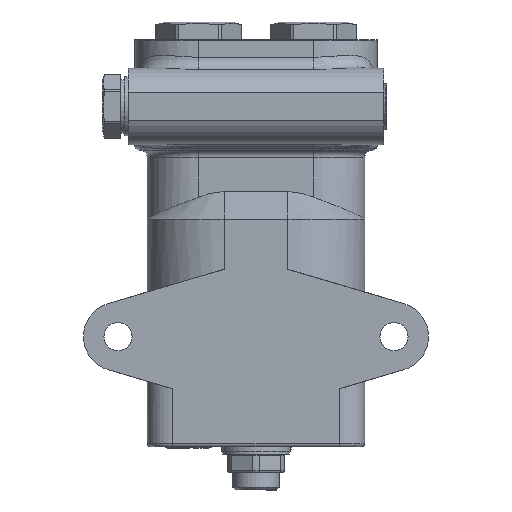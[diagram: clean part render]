
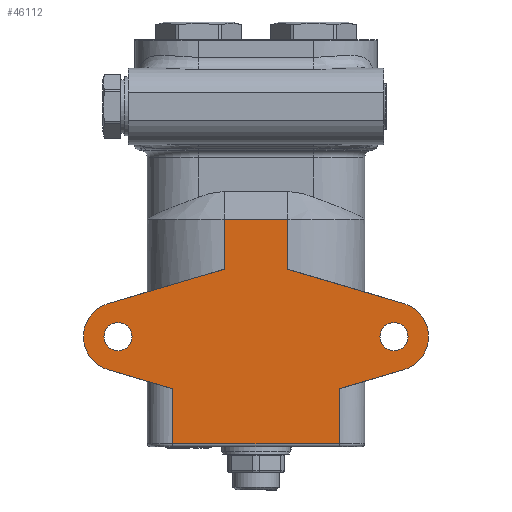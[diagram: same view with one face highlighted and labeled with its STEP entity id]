
A CAD part, front view. The second image highlights one B-rep face of the part: STEP entity #46112.
In plain terms, the highlighted planar face has unit normal (0, -1, 0).
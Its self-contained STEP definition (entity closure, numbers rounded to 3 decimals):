
#45274=CARTESIAN_POINT('',(102.0,0.,32.));
#45275=VERTEX_POINT('',#45274);
#45276=CARTESIAN_POINT('',(96.5,0.0,32.));
#45277=DIRECTION('',(0.0,1.0,0.0));
#45278=DIRECTION('',(-1.0,0.0,0.0));
#45279=AXIS2_PLACEMENT_3D('',#45276,#45277,#45278);
#45280=CIRCLE('',#45279,5.5);
#45281=EDGE_CURVE('',#45275,#45275,#45280,.T.);
#45342=CARTESIAN_POINT('',(-6.,0.,32.));
#45343=VERTEX_POINT('',#45342);
#45344=CARTESIAN_POINT('',(-11.5,0.0,32.));
#45345=DIRECTION('',(0.0,1.0,0.0));
#45346=DIRECTION('',(-1.0,0.0,0.0));
#45347=AXIS2_PLACEMENT_3D('',#45344,#45345,#45346);
#45348=CIRCLE('',#45347,5.5);
#45349=EDGE_CURVE('',#45343,#45343,#45348,.T.);
#45965=CARTESIAN_POINT('',(10.,0.,-10.));
#45966=VERTEX_POINT('',#45965);
#45967=CARTESIAN_POINT('',(10.,0.,11.585));
#45968=VERTEX_POINT('',#45967);
#45969=CARTESIAN_POINT('',(10.,0.,-10.));
#45970=DIRECTION('',(0.0,0.0,1.0));
#45971=VECTOR('',#45970,21.585);
#45972=LINE('',#45969,#45971);
#45973=EDGE_CURVE('',#45966,#45968,#45972,.T.);
#45993=CARTESIAN_POINT('',(75.,0.,0.0));
#45994=DIRECTION('',(0.0,-1.0,0.0));
#45995=DIRECTION('',(0.0,0.0,-1.0));
#45996=AXIS2_PLACEMENT_3D('',#45993,#45994,#45995);
#45997=PLANE('',#45996);
#45998=CARTESIAN_POINT('',(75.,0.,-10.));
#45999=VERTEX_POINT('',#45998);
#46000=CARTESIAN_POINT('',(75.,0.,11.585));
#46001=VERTEX_POINT('',#46000);
#46002=CARTESIAN_POINT('',(75.,0.,-10.));
#46003=DIRECTION('',(0.0,0.0,1.0));
#46004=VECTOR('',#46003,21.585);
#46005=LINE('',#46002,#46004);
#46006=EDGE_CURVE('',#45999,#46001,#46005,.T.);
#46007=ORIENTED_EDGE('',*,*,#46006,.T.);
#46008=CARTESIAN_POINT('',(100.319,0.,19.051));
#46009=VERTEX_POINT('',#46008);
#46010=CARTESIAN_POINT('',(100.319,0.,19.051));
#46011=DIRECTION('',(-0.959,0.,-0.283));
#46012=VECTOR('',#46011,26.397);
#46013=LINE('',#46010,#46012);
#46014=EDGE_CURVE('',#46009,#46001,#46013,.T.);
#46015=ORIENTED_EDGE('',*,*,#46014,.F.);
#46016=CARTESIAN_POINT('',(100.319,0.,44.949));
#46017=VERTEX_POINT('',#46016);
#46018=CARTESIAN_POINT('',(96.5,0.,32.));
#46019=DIRECTION('',(0.,1.0,0.));
#46020=DIRECTION('',(-0.283,0.,0.959));
#46021=AXIS2_PLACEMENT_3D('',#46018,#46019,#46020);
#46022=CIRCLE('',#46021,13.5);
#46023=EDGE_CURVE('',#46017,#46009,#46022,.T.);
#46024=ORIENTED_EDGE('',*,*,#46023,.F.);
#46025=CARTESIAN_POINT('',(55.,0.,58.314));
#46026=VERTEX_POINT('',#46025);
#46027=CARTESIAN_POINT('',(55.,0.,58.314));
#46028=DIRECTION('',(0.959,0.,-0.283));
#46029=VECTOR('',#46028,47.248);
#46030=LINE('',#46027,#46029);
#46031=EDGE_CURVE('',#46026,#46017,#46030,.T.);
#46032=ORIENTED_EDGE('',*,*,#46031,.F.);
#46033=CARTESIAN_POINT('',(55.,0.,78.0));
#46034=VERTEX_POINT('',#46033);
#46035=CARTESIAN_POINT('',(55.,0.,58.314));
#46036=DIRECTION('',(0.0,0.0,1.0));
#46037=VECTOR('',#46036,19.686);
#46038=LINE('',#46035,#46037);
#46039=EDGE_CURVE('',#46026,#46034,#46038,.T.);
#46040=ORIENTED_EDGE('',*,*,#46039,.T.);
#46041=CARTESIAN_POINT('',(54.95,0.,78.0));
#46042=VERTEX_POINT('',#46041);
#46043=CARTESIAN_POINT('',(55.,0.,78.0));
#46044=DIRECTION('',(-1.0,0.0,0.0));
#46045=VECTOR('',#46044,0.05);
#46046=LINE('',#46043,#46045);
#46047=EDGE_CURVE('',#46034,#46042,#46046,.T.);
#46048=ORIENTED_EDGE('',*,*,#46047,.T.);
#46049=CARTESIAN_POINT('',(30.05,0.,78.0));
#46050=VERTEX_POINT('',#46049);
#46051=CARTESIAN_POINT('',(54.95,0.,78.0));
#46052=DIRECTION('',(-1.0,0.0,0.0));
#46053=VECTOR('',#46052,24.9);
#46054=LINE('',#46051,#46053);
#46055=EDGE_CURVE('',#46042,#46050,#46054,.T.);
#46056=ORIENTED_EDGE('',*,*,#46055,.T.);
#46057=CARTESIAN_POINT('',(30.,0.,78.0));
#46058=VERTEX_POINT('',#46057);
#46059=CARTESIAN_POINT('',(30.,30.,78.0));
#46060=DIRECTION('',(0.0,0.0,-1.0));
#46061=DIRECTION('',(-1.0,0.0,0.0));
#46062=AXIS2_PLACEMENT_3D('',#46059,#46060,#46061);
#46063=CIRCLE('',#46062,30.);
#46064=EDGE_CURVE('',#46050,#46058,#46063,.T.);
#46065=ORIENTED_EDGE('',*,*,#46064,.T.);
#46066=CARTESIAN_POINT('',(30.,0.,58.314));
#46067=VERTEX_POINT('',#46066);
#46068=CARTESIAN_POINT('',(30.,0.,58.314));
#46069=DIRECTION('',(0.0,0.0,1.0));
#46070=VECTOR('',#46069,19.686);
#46071=LINE('',#46068,#46070);
#46072=EDGE_CURVE('',#46067,#46058,#46071,.T.);
#46073=ORIENTED_EDGE('',*,*,#46072,.F.);
#46074=CARTESIAN_POINT('',(-15.319,0.,44.949));
#46075=VERTEX_POINT('',#46074);
#46076=CARTESIAN_POINT('',(-15.319,0.,44.949));
#46077=DIRECTION('',(0.959,0.,0.283));
#46078=VECTOR('',#46077,47.248);
#46079=LINE('',#46076,#46078);
#46080=EDGE_CURVE('',#46075,#46067,#46079,.T.);
#46081=ORIENTED_EDGE('',*,*,#46080,.F.);
#46082=CARTESIAN_POINT('',(-15.319,0.,19.051));
#46083=VERTEX_POINT('',#46082);
#46084=CARTESIAN_POINT('',(-11.5,0.,32.));
#46085=DIRECTION('',(0.,1.0,0.));
#46086=DIRECTION('',(0.283,0.,-0.959));
#46087=AXIS2_PLACEMENT_3D('',#46084,#46085,#46086);
#46088=CIRCLE('',#46087,13.5);
#46089=EDGE_CURVE('',#46083,#46075,#46088,.T.);
#46090=ORIENTED_EDGE('',*,*,#46089,.F.);
#46091=CARTESIAN_POINT('',(10.,0.,11.585));
#46092=DIRECTION('',(-0.959,0.,0.283));
#46093=VECTOR('',#46092,26.397);
#46094=LINE('',#46091,#46093);
#46095=EDGE_CURVE('',#45968,#46083,#46094,.T.);
#46096=ORIENTED_EDGE('',*,*,#46095,.F.);
#46097=ORIENTED_EDGE('',*,*,#45973,.F.);
#46098=CARTESIAN_POINT('',(75.0,0.,-10.));
#46099=DIRECTION('',(-1.0,0.0,0.0));
#46100=VECTOR('',#46099,65.0);
#46101=LINE('',#46098,#46100);
#46102=EDGE_CURVE('',#45999,#45966,#46101,.T.);
#46103=ORIENTED_EDGE('',*,*,#46102,.F.);
#46104=EDGE_LOOP('',(#46007,#46015,#46024,#46032,#46040,#46048,#46056,#46065,#46073,#46081,#46090,#46096,#46097,#46103));
#46105=FACE_OUTER_BOUND('',#46104,.T.);
#46106=ORIENTED_EDGE('',*,*,#45281,.T.);
#46107=EDGE_LOOP('',(#46106));
#46108=FACE_BOUND('',#46107,.T.);
#46109=ORIENTED_EDGE('',*,*,#45349,.T.);
#46110=EDGE_LOOP('',(#46109));
#46111=FACE_BOUND('',#46110,.T.);
#46112=ADVANCED_FACE('',(#46105,#46108,#46111),#45997,.T.);
